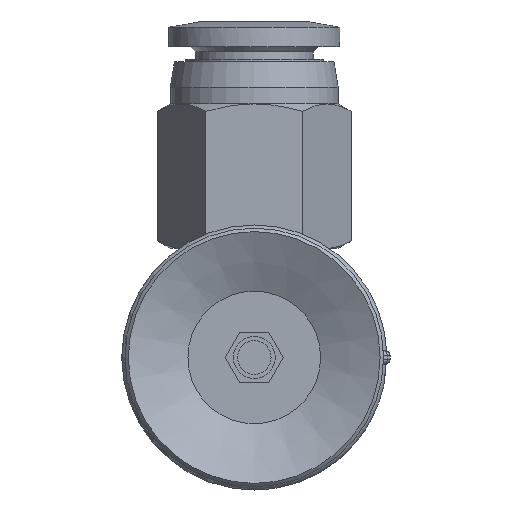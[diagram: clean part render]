
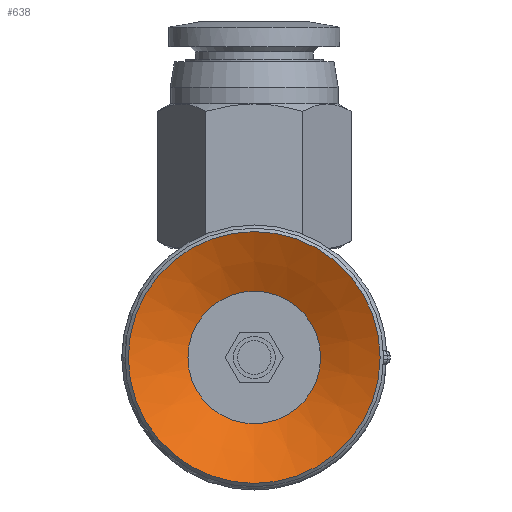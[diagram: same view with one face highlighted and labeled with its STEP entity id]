
A CAD part, front view. The second image highlights one B-rep face of the part: STEP entity #638.
In plain terms, the highlighted conical face has half-angle 64 degrees and reference radius 3.95 mm.
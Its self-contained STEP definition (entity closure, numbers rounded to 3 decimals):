
#638=ADVANCED_FACE('',(#999,#1000),#1001,.F.);
#999=FACE_BOUND('',#1547,.T.);
#1000=FACE_OUTER_BOUND('',#1548,.T.);
#1001=CONICAL_SURFACE('',#1549,3.95,1.117);
#1547=EDGE_LOOP('',(#2696));
#1548=EDGE_LOOP('',(#2697));
#1549=AXIS2_PLACEMENT_3D('',#2698,#2699,#2700);
#2696=ORIENTED_EDGE('',*,*,#3241,.F.);
#2697=ORIENTED_EDGE('',*,*,#3212,.T.);
#2698=CARTESIAN_POINT('',(0.0,-29.404,-47.168));
#2699=DIRECTION('',(-0.0,0.,1.0));
#2700=DIRECTION('',(0.0,-1.0,0.));
#3212=EDGE_CURVE('',#3660,#3660,#3661,.T.);
#3241=EDGE_CURVE('',#3706,#3706,#3707,.T.);
#3660=VERTEX_POINT('',#4566);
#3661=CIRCLE('',#4567,7.5);
#3706=VERTEX_POINT('',#4634);
#3707=CIRCLE('',#4635,3.95);
#4566=CARTESIAN_POINT('',(0.0,-36.904,-45.437));
#4567=AXIS2_PLACEMENT_3D('',#5398,#5399,#5400);
#4634=CARTESIAN_POINT('',(0.0,-33.354,-47.168));
#4635=AXIS2_PLACEMENT_3D('',#5470,#5471,#5472);
#5398=CARTESIAN_POINT('',(0.0,-29.404,-45.437));
#5399=DIRECTION('',(0.0,0.,1.0));
#5400=DIRECTION('',(0.0,-1.0,0.));
#5470=CARTESIAN_POINT('',(0.0,-29.404,-47.168));
#5471=DIRECTION('',(0.0,0.,1.0));
#5472=DIRECTION('',(0.0,-1.0,0.));
